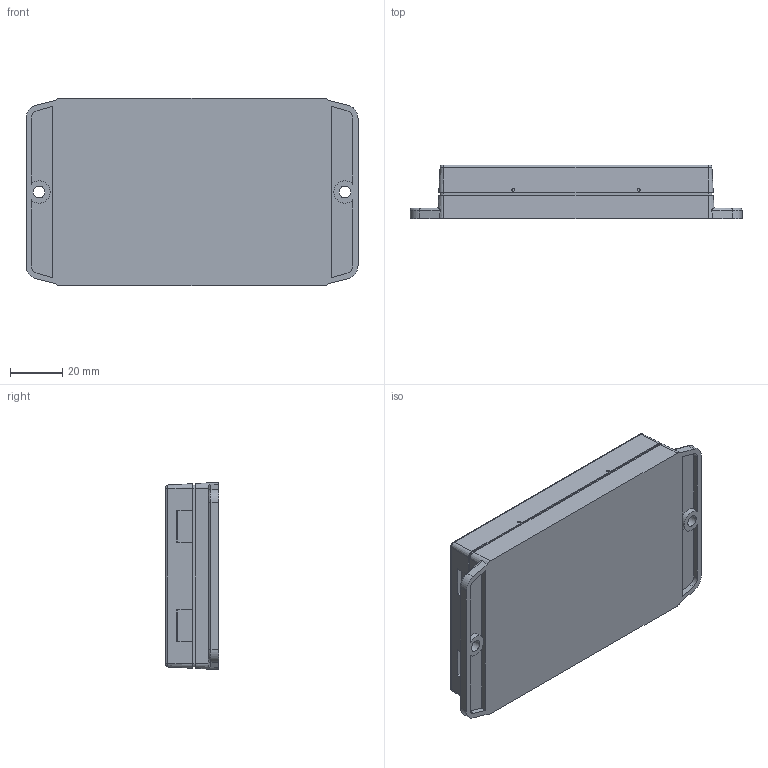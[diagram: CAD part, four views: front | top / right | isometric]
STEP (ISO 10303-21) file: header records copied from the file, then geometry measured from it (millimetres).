
FILE_DESCRIPTION (( 'STEP AP203' ), '1' );
FILE_NAME ('SN-27-01.step', '2018-07-09T14:14:04', ( '' ), ( '' ), 'SwSTEP 2.0', 'SolidWorks 2016', '' );
FILE_SCHEMA (( 'CONFIG_CONTROL_DESIGN' ));
Length unit declared in the file: inch
Products named in the file (3): SN-27C_SN-27C-01; SN-27B_SN-27B-01; SN-27-01
Assembly tree (2 placements, depth 2):
  SN-27-01
    SN-27B_SN-27B-01
    SN-27C_SN-27C-01
Bounding box: 127 x 20.5 x 71.65 mm (x, y, z)
Volume: 48684 mm3; surface area: 47235.9 mm2
Topology: 2 solids, 2 shells, 216 faces, 564 edges, 368 vertices
Faces by surface type: plane 154, cylinder 38, cone 16, torus 8
Full cylindrical faces by diameter (mm): 1 x4, 4.5 x2
Entity records: 7045 total; most frequent: CARTESIAN_POINT 1391, ORIENTED_EDGE 1100, DIRECTION 1092, EDGE_CURVE 550, VECTOR 426, LINE 426, VERTEX_POINT 368, AXIS2_PLACEMENT_3D 333
